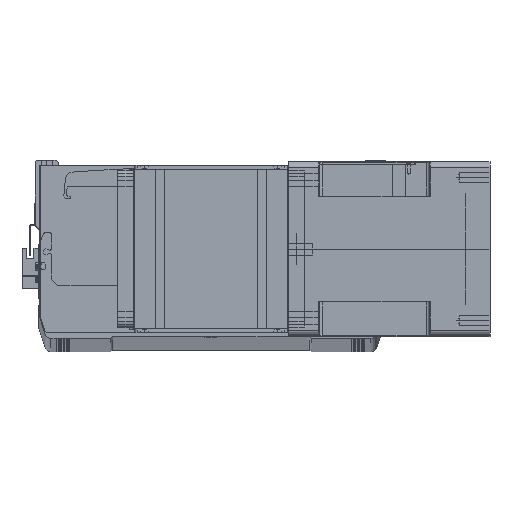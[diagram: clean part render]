
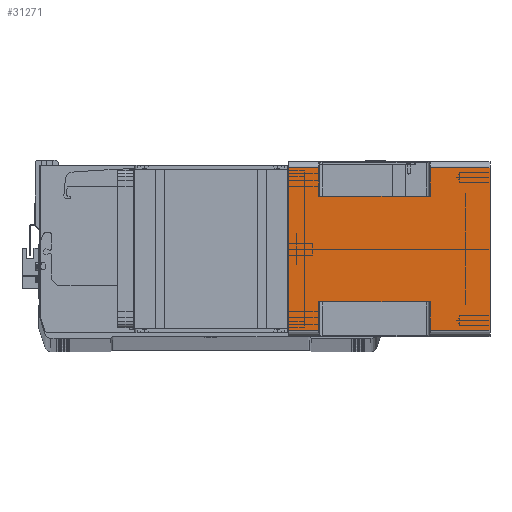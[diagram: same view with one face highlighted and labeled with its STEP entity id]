
A CAD part, top view. The second image highlights one B-rep face of the part: STEP entity #31271.
In plain terms, the highlighted planar face has unit normal (0, 0, 1) as drawn and (1, 0, 0) by its records, which use the part's own axes.
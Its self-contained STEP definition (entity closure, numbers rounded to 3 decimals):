
#250 = VECTOR ( 'NONE', #34941, 1000. ) ;
#466 = ORIENTED_EDGE ( 'NONE', *, *, #21209, .F. ) ;
#701 = VERTEX_POINT ( 'NONE', #26135 ) ;
#821 = VECTOR ( 'NONE', #10937, 1000. ) ;
#918 = CARTESIAN_POINT ( 'NONE',  ( 71., 66., -164. ) ) ;
#946 = LINE ( 'NONE', #10231, #24357 ) ;
#1408 = DIRECTION ( 'NONE',  ( 0., 1., 0. ) ) ;
#1878 = VERTEX_POINT ( 'NONE', #6305 ) ;
#1912 = EDGE_CURVE ( 'NONE', #20256, #6782, #15347, .T. ) ;
#2419 = DIRECTION ( 'NONE',  ( 0., 0., 1. ) ) ;
#2705 = LINE ( 'NONE', #19714, #31293 ) ;
#3256 = DIRECTION ( 'NONE',  ( 0., 0., -1. ) ) ;
#3267 = EDGE_CURVE ( 'NONE', #39893, #42478, #7092, .T. ) ;
#3687 = VERTEX_POINT ( 'NONE', #918 ) ;
#4889 = EDGE_CURVE ( 'NONE', #24049, #701, #2705, .T. ) ;
#5074 = CARTESIAN_POINT ( 'NONE',  ( 71., 66., -164. ) ) ;
#6305 = CARTESIAN_POINT ( 'NONE',  ( 71., 43., -24.5 ) ) ;
#6580 = DIRECTION ( 'NONE',  ( 0., 0., 1. ) ) ;
#6782 = VERTEX_POINT ( 'NONE', #37431 ) ;
#7092 = LINE ( 'NONE', #25251, #250 ) ;
#7367 = CARTESIAN_POINT ( 'NONE',  ( 71., -66., -164. ) ) ;
#7943 = VERTEX_POINT ( 'NONE', #16304 ) ;
#9985 = LINE ( 'NONE', #21188, #22981 ) ;
#10231 = CARTESIAN_POINT ( 'NONE',  ( 71., 43., -164. ) ) ;
#10556 = LINE ( 'NONE', #5074, #28177 ) ;
#10937 = DIRECTION ( 'NONE',  ( 0., 1., 0. ) ) ;
#11161 = EDGE_LOOP ( 'NONE', ( #33229, #29347, #17210, #15367, #39264, #33527, #18860, #30391, #28772, #11656, #466, #34524 ) ) ;
#11656 = ORIENTED_EDGE ( 'NONE', *, *, #30206, .F. ) ;
#11813 = CARTESIAN_POINT ( 'NONE',  ( 71., -66., -115.5 ) ) ;
#12000 = CARTESIAN_POINT ( 'NONE',  ( 71., -43., -164. ) ) ;
#12909 = CARTESIAN_POINT ( 'NONE',  ( 71., -66., -164. ) ) ;
#13539 = EDGE_CURVE ( 'NONE', #22022, #29407, #24616, .T. ) ;
#13572 = EDGE_CURVE ( 'NONE', #7943, #6782, #41761, .T. ) ;
#14089 = VECTOR ( 'NONE', #31803, 1000. ) ;
#14857 = LINE ( 'NONE', #41269, #821 ) ;
#15347 = LINE ( 'NONE', #12909, #15869 ) ;
#15367 = ORIENTED_EDGE ( 'NONE', *, *, #38020, .T. ) ;
#15759 = VECTOR ( 'NONE', #38211, 1000. ) ;
#15869 = VECTOR ( 'NONE', #6580, 1000. ) ;
#16304 = CARTESIAN_POINT ( 'NONE',  ( 71., -43., -115.5 ) ) ;
#16355 = AXIS2_PLACEMENT_3D ( 'NONE', #7367, #40968, #21091 ) ;
#16361 = CARTESIAN_POINT ( 'NONE',  ( 71., 66., -115.5 ) ) ;
#16665 = DIRECTION ( 'NONE',  ( 0., 1., 0. ) ) ;
#17210 = ORIENTED_EDGE ( 'NONE', *, *, #1912, .F. ) ;
#17965 = EDGE_CURVE ( 'NONE', #7943, #29407, #38874, .T. ) ;
#18307 = CARTESIAN_POINT ( 'NONE',  ( 71., -43., -24.5 ) ) ;
#18635 = CARTESIAN_POINT ( 'NONE',  ( 71., -43., -24.5 ) ) ;
#18856 = CARTESIAN_POINT ( 'NONE',  ( 71., -66., -164. ) ) ;
#18860 = ORIENTED_EDGE ( 'NONE', *, *, #33574, .F. ) ;
#19714 = CARTESIAN_POINT ( 'NONE',  ( 71., 43., -115.5 ) ) ;
#20139 = CARTESIAN_POINT ( 'NONE',  ( 71., -66., -24.5 ) ) ;
#20256 = VERTEX_POINT ( 'NONE', #43108 ) ;
#20675 = PLANE ( 'NONE',  #16355 ) ;
#21091 = DIRECTION ( 'NONE',  ( 0., 1., 0. ) ) ;
#21188 = CARTESIAN_POINT ( 'NONE',  ( 71., -66., -24.5 ) ) ;
#21209 = EDGE_CURVE ( 'NONE', #22022, #24327, #24506, .T. ) ;
#22022 = VERTEX_POINT ( 'NONE', #20139 ) ;
#22077 = CARTESIAN_POINT ( 'NONE',  ( 71., 66., -24.5 ) ) ;
#22562 = FACE_OUTER_BOUND ( 'NONE', #11161, .T. ) ;
#22981 = VECTOR ( 'NONE', #1408, 1000. ) ;
#24049 = VERTEX_POINT ( 'NONE', #16361 ) ;
#24327 = VERTEX_POINT ( 'NONE', #25649 ) ;
#24357 = VECTOR ( 'NONE', #3256, 1000. ) ;
#24506 = LINE ( 'NONE', #18856, #14089 ) ;
#24616 = LINE ( 'NONE', #18635, #15759 ) ;
#25251 = CARTESIAN_POINT ( 'NONE',  ( 71., 66., -164. ) ) ;
#25649 = CARTESIAN_POINT ( 'NONE',  ( 71., -66., 0. ) ) ;
#26135 = CARTESIAN_POINT ( 'NONE',  ( 71., 43., -115.5 ) ) ;
#26297 = DIRECTION ( 'NONE',  ( 0., -1., 0. ) ) ;
#26863 = LINE ( 'NONE', #36699, #39281 ) ;
#27654 = EDGE_CURVE ( 'NONE', #3687, #24049, #10556, .T. ) ;
#28177 = VECTOR ( 'NONE', #34914, 1000. ) ;
#28772 = ORIENTED_EDGE ( 'NONE', *, *, #3267, .T. ) ;
#28792 = VECTOR ( 'NONE', #35028, 1000. ) ;
#29347 = ORIENTED_EDGE ( 'NONE', *, *, #13572, .T. ) ;
#29407 = VERTEX_POINT ( 'NONE', #18307 ) ;
#30206 = EDGE_CURVE ( 'NONE', #24327, #42478, #14857, .T. ) ;
#30391 = ORIENTED_EDGE ( 'NONE', *, *, #31781, .T. ) ;
#31271 = ADVANCED_FACE ( 'NONE', ( #22562 ), #20675, .T. ) ;
#31293 = VECTOR ( 'NONE', #26297, 1000. ) ;
#31781 = EDGE_CURVE ( 'NONE', #1878, #39893, #9985, .T. ) ;
#31803 = DIRECTION ( 'NONE',  ( 0., 0., 1. ) ) ;
#32137 = VECTOR ( 'NONE', #2419, 1000. ) ;
#33229 = ORIENTED_EDGE ( 'NONE', *, *, #17965, .F. ) ;
#33527 = ORIENTED_EDGE ( 'NONE', *, *, #4889, .T. ) ;
#33574 = EDGE_CURVE ( 'NONE', #1878, #701, #946, .T. ) ;
#34524 = ORIENTED_EDGE ( 'NONE', *, *, #13539, .T. ) ;
#34914 = DIRECTION ( 'NONE',  ( 0., 0., 1. ) ) ;
#34941 = DIRECTION ( 'NONE',  ( 0., 0., 1. ) ) ;
#35028 = DIRECTION ( 'NONE',  ( 0., -1., 0. ) ) ;
#36699 = CARTESIAN_POINT ( 'NONE',  ( 71., -66., -164. ) ) ;
#37070 = CARTESIAN_POINT ( 'NONE',  ( 71., 66., 0. ) ) ;
#37431 = CARTESIAN_POINT ( 'NONE',  ( 71., -66., -115.5 ) ) ;
#38020 = EDGE_CURVE ( 'NONE', #20256, #3687, #26863, .T. ) ;
#38211 = DIRECTION ( 'NONE',  ( 0., 1., 0. ) ) ;
#38874 = LINE ( 'NONE', #12000, #32137 ) ;
#39264 = ORIENTED_EDGE ( 'NONE', *, *, #27654, .T. ) ;
#39281 = VECTOR ( 'NONE', #16665, 1000. ) ;
#39893 = VERTEX_POINT ( 'NONE', #22077 ) ;
#40968 = DIRECTION ( 'NONE',  ( 1., 0., 0. ) ) ;
#41269 = CARTESIAN_POINT ( 'NONE',  ( 71., -66., 0. ) ) ;
#41761 = LINE ( 'NONE', #11813, #28792 ) ;
#42478 = VERTEX_POINT ( 'NONE', #37070 ) ;
#43108 = CARTESIAN_POINT ( 'NONE',  ( 71., -66., -164. ) ) ;
